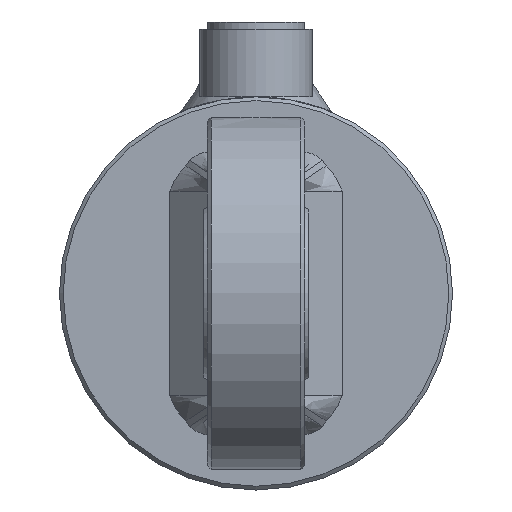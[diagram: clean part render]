
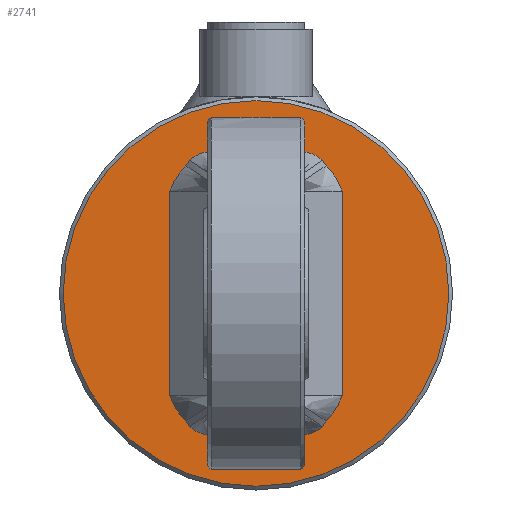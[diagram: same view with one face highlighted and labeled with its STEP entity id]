
A CAD part, left-side view. The second image highlights one B-rep face of the part: STEP entity #2741.
In plain terms, the highlighted planar face has unit normal (-1, 0, 0).
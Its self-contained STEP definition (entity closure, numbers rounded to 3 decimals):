
#2741 = ADVANCED_FACE( '', ( #7752 ), #7753, .T. );
#7752 = FACE_OUTER_BOUND( '', #9642, .T. );
#7753 = PLANE( '', #9643 );
#9642 = EDGE_LOOP( '', ( #10594 ) );
#9643 = AXIS2_PLACEMENT_3D( '', #10595, #10596, #10597 );
#10594 = ORIENTED_EDGE( '', *, *, #11856, .T. );
#10595 = CARTESIAN_POINT( '', ( -15., 0., 0. ) );
#10596 = DIRECTION( '', ( -1., 0., 0. ) );
#10597 = DIRECTION( '', ( 0., -1., 0. ) );
#11856 = EDGE_CURVE( '', #15272, #15272, #15273, .T. );
#15272 = VERTEX_POINT( '', #15915 );
#15273 = CIRCLE( '', #15916, 51.5 );
#15915 = CARTESIAN_POINT( '', ( -15., -51.5, 0. ) );
#15916 = AXIS2_PLACEMENT_3D( '', #16069, #16070, #16071 );
#16069 = CARTESIAN_POINT( '', ( -15., 0., 0. ) );
#16070 = DIRECTION( '', ( -1., 0., 0. ) );
#16071 = DIRECTION( '', ( 0., -1., 0. ) );
